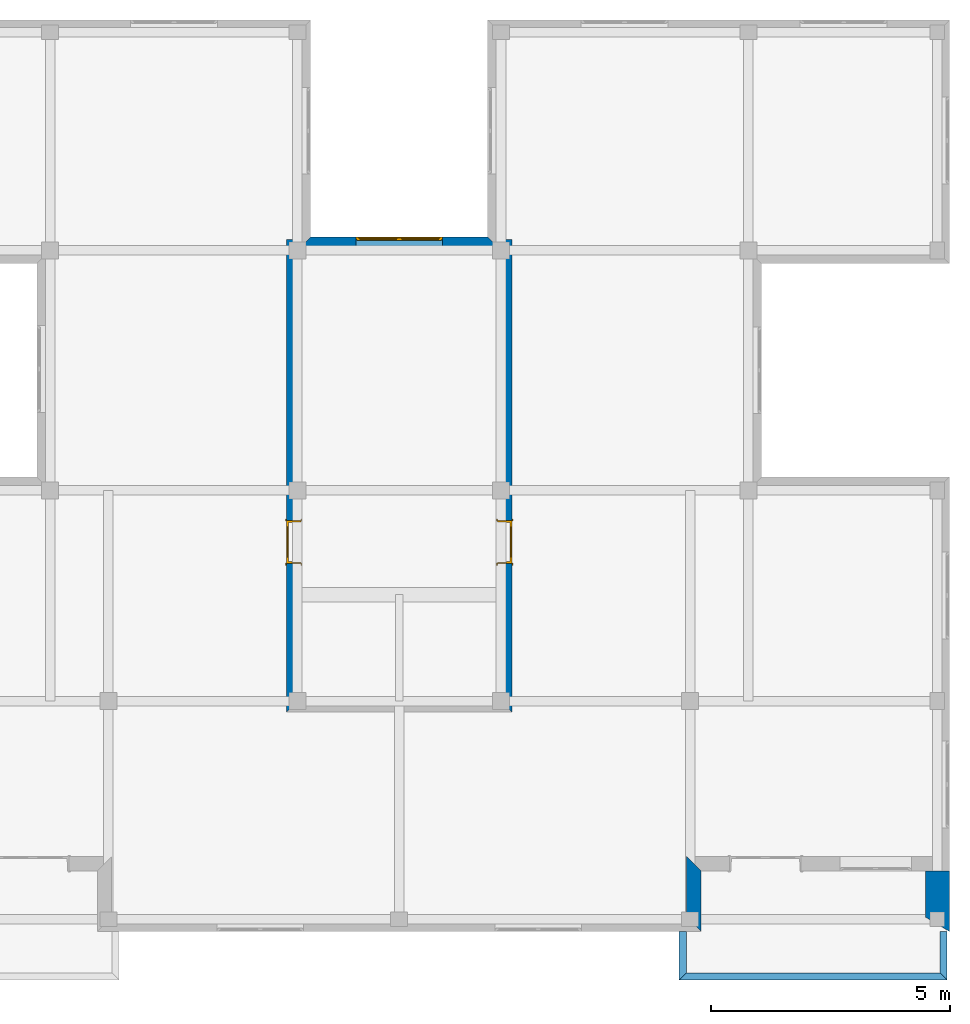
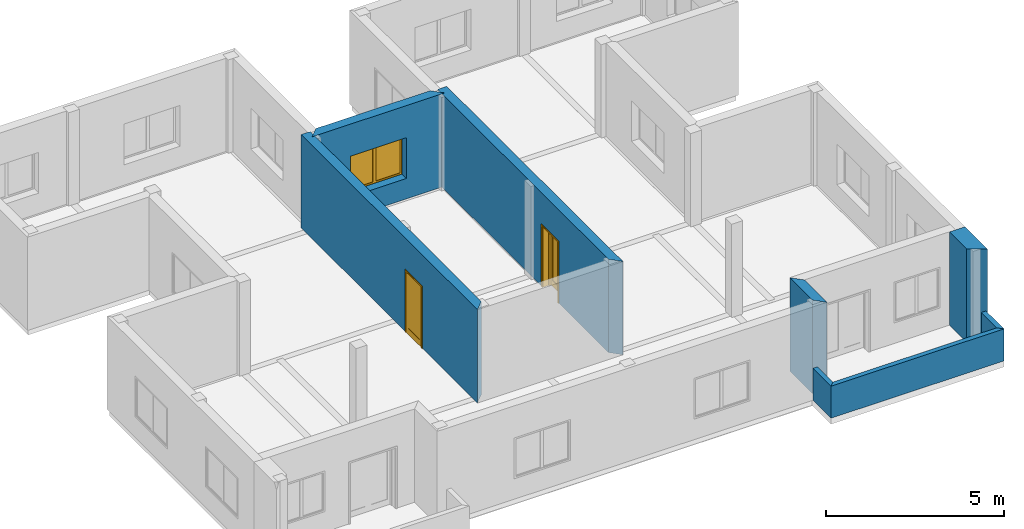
# One storey, part 4 of 6: 8 walls, 2 doors, 1 window, 3 openings.
"""IFC2X3 building model written with IfcOpenShell, lengths in millimetres."""

from ifc_helpers import new_model, entity, si_unit, converted_unit, direction, frame, origin_with_axes, origin_2d_with_axis, place, context, subcontext, project, spatial, polyline, rectangle, outline, extrude, faceted_brep, source, transform, mapped, material, layer, layer_set, layer_usage, type_object, element, fill, save


model = new_model("IFC2X3")

# Units and contexts
model_context = context("Model", 3, precision=1e-05, world=origin_with_axes(), true_north=direction((0.0, 1.0)))
body_context = subcontext(model_context, "Body", "Model", "MODEL_VIEW")
ifc_project = project(units=[si_unit("LENGTHUNIT", "METRE", prefix="MILLI"), si_unit("AREAUNIT", "SQUARE_METRE"), si_unit("VOLUMEUNIT", "CUBIC_METRE"), converted_unit("PLANEANGLEUNIT", "DEGREE", entity("IfcPlaneAngleMeasure", 0.017453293), si_unit("PLANEANGLEUNIT", "RADIAN"), dimensions=[0, 0, 0, 0, 0, 0, 0]), si_unit("SOLIDANGLEUNIT", "STERADIAN"), si_unit("MASSUNIT", "GRAM"), si_unit("TIMEUNIT", "SECOND"), si_unit("THERMODYNAMICTEMPERATUREUNIT", "DEGREE_CELSIUS"), si_unit("LUMINOUSINTENSITYUNIT", "LUMEN")], contexts=[model_context])

# Site, building, storey
site_placement = place(None, origin_with_axes())
site = spatial("IfcSite", under=ifc_project, at=site_placement, Name="Sitio", CompositionType="ELEMENT")
building_placement = place(site_placement, origin_with_axes())
building = spatial("IfcBuilding", under=site, at=building_placement, Name="Ejemplo_StruBIM", CompositionType="ELEMENT")
storey_placement = place(building_placement, frame((0.0, 0.0, 12801.6), z_axis=(0.0, 0.0, 1.0), x_axis=(1.0, 0.0, 0.0)))
storey = spatial("IfcBuildingStorey", under=building, at=storey_placement, Name="Fourth floor", CompositionType="ELEMENT", Elevation=12801.6)

# Wall, opening, window
ifc_material_1 = material(Name="Bloque mampostería")
ifc_layer_1 = layer(ifc_material_1, 300.0, ventilated="UNKNOWN")
ifc_layer_set_1 = layer_set([ifc_layer_1], Name="Bloque mampostería 300")
ifc_layer_usage_1 = layer_usage(ifc_layer_set_1, "AXIS2", "POSITIVE", 0.0)
wall_type_1 = type_object("IfcWallType", Name="Bloque mampostería 11 3/4\"", PredefinedType="NOTDEFINED")
wall_1_placement = place(storey_placement, frame((13131.8, 14300.2, 0.0), z_axis=(0.0, 0.0, 1.0), x_axis=(-1.0, 0.0, 0.0)))
wall_1 = element("IfcWallStandardCase", 1, at=wall_1_placement, inside=storey, type_object=wall_type_1, material=ifc_layer_usage_1, Name="Muro-008", context=body_context, shape_type="SweptSolid", body=[
    extrude(outline(polyline([(0.0, 0.0), (3708.4, 0.0), (4008.4, 300.0), (-300.0, 300.0), (0.0, 0.0)])), origin_with_axes(), (0.0, 0.0, 1.0), 3200.4),
])
opening_1_placement = place(wall_1_placement, frame((1854.2, 0.0, 700.0), z_axis=(0.0, 0.0, 1.0), x_axis=(1.0, 0.0, 0.0)))
opening_1 = element("IfcOpeningElement", 2, at=opening_1_placement, cuts=wall_1, Name="V10", context=body_context, shape_type="SweptSolid", body=[
    extrude(rectangle(XDim=1820.0, YDim=1400.0, at=origin_2d_with_axis()), frame((0.0, 300.0, 700.0), z_axis=(0.0, -1.0, 0.0), x_axis=(1.0, 0.0, 0.0)), (0.0, 0.0, 1.0), 300.0),
])
ifc_material_2 = material(Name="Fondo")
window_style = type_object("IfcWindowStyle", Name="Ventana Doble Hoja 16", ConstructionType="NOTDEFINED", OperationType="DOUBLE_PANEL_HORIZONTAL", ParameterTakesPrecedence=False, Sizeable=False)
shared_shape_1 = source(origin_with_axes(), body_context, "Body", "Brep", [
    faceted_brep([(-885.0, -50.0, 1350.0), (-885.0, -25.0, 1350.0), (-860.0, -25.0, 1350.0), (-860.0, 0.0, 1350.0), (-910.0, 0.0, 1350.0), (-910.0, -50.0, 1350.0), (-885.0, -50.0, 50.0), (-885.0, -25.0, 50.0), (-860.0, -25.0, 50.0), (-860.0, 0.0, 50.0), (-910.0, 0.0, 50.0), (-910.0, -50.0, 50.0)], [[[0, 1, 2, 3, 4, 5]], [[1, 0, 6, 7]], [[8, 2, 1, 7]], [[2, 8, 9, 3]], [[4, 3, 9, 10]], [[5, 4, 10, 11]], [[6, 0, 5, 11]], [[7, 6, 11, 10, 9, 8]]]),
    faceted_brep([(860.0, -25.0, 1350.0), (885.0, -25.0, 1350.0), (885.0, -50.0, 1350.0), (910.0, -50.0, 1350.0), (910.0, 0.0, 1350.0), (860.0, 0.0, 1350.0), (860.0, -25.0, 50.0), (885.0, -25.0, 50.0), (885.0, -50.0, 50.0), (910.0, -50.0, 50.0), (910.0, 0.0, 50.0), (860.0, 0.0, 50.0)], [[[0, 1, 2, 3, 4, 5]], [[1, 0, 6, 7]], [[8, 2, 1, 7]], [[2, 8, 9, 3]], [[9, 10, 4, 3]], [[10, 11, 5, 4]], [[6, 0, 5, 11]], [[7, 6, 11, 10, 9, 8]]]),
    faceted_brep([(860.0, -25.0, 50.0), (885.0, -25.0, 50.0), (885.0, -50.0, 50.0), (910.0, -50.0, 50.0), (910.0, 0.0, 50.0), (860.0, 0.0, 50.0), (-860.0, -25.0, 50.0), (-885.0, -25.0, 50.0), (-885.0, -25.0, 25.0), (885.0, -25.0, 25.0), (885.0, -50.0, 25.0), (-885.0, -50.0, 25.0), (-885.0, -50.0, 50.0), (-910.0, -50.0, 50.0), (-910.0, -50.0, 0.0), (910.0, -50.0, 0.0), (910.0, 0.0, 0.0), (-910.0, 0.0, 50.0), (-860.0, 0.0, 50.0), (-910.0, 0.0, 0.0)], [[[0, 1, 2, 3, 4, 5]], [[1, 0, 6, 7, 8, 9]], [[10, 2, 1, 9]], [[11, 12, 13, 14, 15, 3, 2, 10]], [[15, 16, 4, 3]], [[17, 18, 5, 4, 16, 19]], [[6, 0, 5, 18]], [[7, 6, 18, 17, 13, 12]], [[7, 12, 11, 8]], [[11, 10, 9, 8]], [[13, 17, 19, 14]], [[14, 19, 16, 15]]]),
    faceted_brep([(-885.0, -50.0, 1350.0), (-885.0, -50.0, 1375.0), (885.0, -50.0, 1375.0), (885.0, -50.0, 1350.0), (910.0, -50.0, 1350.0), (910.0, -50.0, 1400.0), (-910.0, -50.0, 1400.0), (-910.0, -50.0, 1350.0), (-885.0, -25.0, 1350.0), (-885.0, -25.0, 1375.0), (885.0, -25.0, 1375.0), (885.0, -25.0, 1350.0), (860.0, -25.0, 1350.0), (860.0, 0.0, 1350.0), (910.0, 0.0, 1350.0), (910.0, 0.0, 1400.0), (-910.0, 0.0, 1400.0), (-910.0, 0.0, 1350.0), (-860.0, 0.0, 1350.0), (-860.0, -25.0, 1350.0)], [[[0, 1, 2, 3, 4, 5, 6, 7]], [[1, 0, 8, 9]], [[2, 1, 9, 10]], [[3, 2, 10, 11]], [[11, 12, 13, 14, 4, 3]], [[4, 14, 15, 5]], [[5, 15, 16, 6]], [[6, 16, 17, 7]], [[8, 0, 7, 17, 18, 19]], [[12, 11, 10, 9, 8, 19]], [[12, 19, 18, 13]], [[14, 13, 18, 17, 16, 15]]]),
    faceted_brep([(-835.0, -25.0, 1325.0), (-885.0, -25.0, 1325.0), (-885.0, -75.0, 1325.0), (-835.0, -75.0, 1325.0), (-835.0, -25.0, 75.0), (-885.0, -25.0, 75.0), (-885.0, -75.0, 75.0), (-835.0, -75.0, 75.0)], [[[0, 1, 2, 3]], [[0, 4, 5, 1]], [[1, 5, 6, 2]], [[3, 2, 6, 7]], [[4, 0, 3, 7]], [[5, 4, 7, 6]]]),
    faceted_brep([(-50.0, -25.0, 75.0), (0.0, -25.0, 75.0), (0.0, -75.0, 75.0), (-50.0, -75.0, 75.0), (-50.0, -25.0, 1325.0), (0.0, -25.0, 1325.0), (0.0, -75.0, 1325.0), (-50.0, -75.0, 1325.0)], [[[0, 1, 2, 3]], [[0, 4, 5, 1]], [[1, 5, 6, 2]], [[3, 2, 6, 7]], [[4, 0, 3, 7]], [[5, 4, 7, 6]]]),
    faceted_brep([(0.0, -25.0, 25.0), (0.0, -25.0, 75.0), (0.0, -75.0, 75.0), (0.0, -75.0, 25.0), (-885.0, -25.0, 25.0), (-885.0, -25.0, 75.0), (-835.0, -25.0, 75.0), (-50.0, -25.0, 75.0), (-50.0, -75.0, 75.0), (-835.0, -75.0, 75.0), (-885.0, -75.0, 75.0), (-885.0, -75.0, 25.0)], [[[0, 1, 2, 3]], [[0, 4, 5, 6, 7, 1]], [[1, 7, 8, 2]], [[3, 2, 8, 9, 10, 11]], [[4, 0, 3, 11]], [[5, 4, 11, 10]], [[6, 5, 10, 9]], [[7, 6, 9, 8]]]),
    faceted_brep([(-885.0, -25.0, 1375.0), (-885.0, -25.0, 1325.0), (-885.0, -75.0, 1325.0), (-885.0, -75.0, 1375.0), (0.0, -25.0, 1375.0), (0.0, -25.0, 1325.0), (-50.0, -25.0, 1325.0), (-835.0, -25.0, 1325.0), (-835.0, -75.0, 1325.0), (-50.0, -75.0, 1325.0), (0.0, -75.0, 1325.0), (0.0, -75.0, 1375.0)], [[[0, 1, 2, 3]], [[0, 4, 5, 6, 7, 1]], [[1, 7, 8, 2]], [[3, 2, 8, 9, 10, 11]], [[4, 0, 3, 11]], [[5, 4, 11, 10]], [[6, 5, 10, 9]], [[7, 6, 9, 8]]]),
    faceted_brep([(-835.0, -40.0, 75.0), (-50.0, -40.0, 75.0), (-50.0, -60.0, 75.0), (-835.0, -60.0, 75.0), (-835.0, -40.0, 1325.0), (-50.0, -40.0, 1325.0), (-50.0, -60.0, 1325.0), (-835.0, -60.0, 1325.0)], [[[0, 1, 2, 3]], [[0, 4, 5, 1]], [[1, 5, 6, 2]], [[3, 2, 6, 7]], [[4, 0, 3, 7]], [[5, 4, 7, 6]]]),
    faceted_brep([(50.0, -25.0, 1325.0), (0.0, -25.0, 1325.0), (0.0, -75.0, 1325.0), (50.0, -75.0, 1325.0), (50.0, -25.0, 75.0), (0.0, -25.0, 75.0), (0.0, -75.0, 75.0), (50.0, -75.0, 75.0)], [[[0, 1, 2, 3]], [[0, 4, 5, 1]], [[1, 5, 6, 2]], [[3, 2, 6, 7]], [[4, 0, 3, 7]], [[5, 4, 7, 6]]]),
    faceted_brep([(835.0, -25.0, 75.0), (885.0, -25.0, 75.0), (885.0, -75.0, 75.0), (835.0, -75.0, 75.0), (835.0, -25.0, 1325.0), (885.0, -25.0, 1325.0), (885.0, -75.0, 1325.0), (835.0, -75.0, 1325.0)], [[[0, 1, 2, 3]], [[0, 4, 5, 1]], [[1, 5, 6, 2]], [[3, 2, 6, 7]], [[4, 0, 3, 7]], [[5, 4, 7, 6]]]),
    faceted_brep([(885.0, -25.0, 25.0), (885.0, -25.0, 75.0), (885.0, -75.0, 75.0), (885.0, -75.0, 25.0), (0.0, -25.0, 25.0), (0.0, -25.0, 75.0), (50.0, -25.0, 75.0), (835.0, -25.0, 75.0), (835.0, -75.0, 75.0), (50.0, -75.0, 75.0), (0.0, -75.0, 75.0), (0.0, -75.0, 25.0)], [[[0, 1, 2, 3]], [[0, 4, 5, 6, 7, 1]], [[1, 7, 8, 2]], [[3, 2, 8, 9, 10, 11]], [[4, 0, 3, 11]], [[5, 4, 11, 10]], [[6, 5, 10, 9]], [[7, 6, 9, 8]]]),
    faceted_brep([(0.0, -25.0, 1375.0), (0.0, -25.0, 1325.0), (0.0, -75.0, 1325.0), (0.0, -75.0, 1375.0), (885.0, -25.0, 1375.0), (885.0, -25.0, 1325.0), (835.0, -25.0, 1325.0), (50.0, -25.0, 1325.0), (50.0, -75.0, 1325.0), (835.0, -75.0, 1325.0), (885.0, -75.0, 1325.0), (885.0, -75.0, 1375.0)], [[[0, 1, 2, 3]], [[0, 4, 5, 6, 7, 1]], [[1, 7, 8, 2]], [[3, 2, 8, 9, 10, 11]], [[4, 0, 3, 11]], [[5, 4, 11, 10]], [[6, 5, 10, 9]], [[7, 6, 9, 8]]]),
    faceted_brep([(50.0, -40.0, 75.0), (835.0, -40.0, 75.0), (835.0, -60.0, 75.0), (50.0, -60.0, 75.0), (50.0, -40.0, 1325.0), (835.0, -40.0, 1325.0), (835.0, -60.0, 1325.0), (50.0, -60.0, 1325.0)], [[[0, 1, 2, 3]], [[0, 4, 5, 1]], [[1, 5, 6, 2]], [[3, 2, 6, 7]], [[4, 0, 3, 7]], [[5, 4, 7, 6]]]),
])
window_placement = place(opening_1_placement, frame((910.0, 0.0, 0.0), z_axis=(0.0, 0.0, 1.0), x_axis=(-1.0, 0.0, 0.0)))
window = element("IfcWindow", 3, at=window_placement, inside=storey, type_object=window_style, material=ifc_material_2, Name="V10", OverallHeight=1400.0, OverallWidth=1820.0, context=body_context, shape_type="MappedRepresentation", body=[
    mapped(shared_shape_1, transform((910.0, 0.0, 0.0))),
])
fill(opening_1, window)

# Wall
ifc_layer_usage_2 = layer_usage(ifc_layer_set_1, "AXIS2", "POSITIVE", 0.0)
wall_2_placement = place(storey_placement, frame((17602.2, -254.0, 0.0), z_axis=(0.0, 0.0, 1.0), x_axis=(0.0, 1.0, 0.0)))
element("IfcWallStandardCase", 4, at=wall_2_placement, inside=storey, type_object=wall_type_1, material=ifc_layer_usage_2, Name="Muro-016", context=body_context, shape_type="SweptSolid", body=[
    extrude(outline(polyline([(0.0, 0.0), (1270.0, 0.0), (1570.0, 300.0), (300.0, 300.0), (0.0, 0.0)])), origin_with_axes(), (0.0, 0.0, 1.0), 3200.4),
])

# Wall, opening, door
ifc_layer_usage_3 = layer_usage(ifc_layer_set_1, "AXIS2", "POSITIVE", 0.0)
wall_3_placement = place(storey_placement, frame((13639.8, 4343.4, 0.0), z_axis=(0.0, 0.0, 1.0), x_axis=(0.0, 1.0, 0.0)))
wall_3 = element("IfcWallStandardCase", 5, at=wall_3_placement, inside=storey, type_object=wall_type_1, material=ifc_layer_usage_3, Name="Muro-009", context=body_context, shape_type="SweptSolid", body=[
    extrude(outline(polyline([(0.0, 0.0), (9906.0, 0.0), (9906.0, 300.0), (300.0, 300.0), (0.0, 0.0)])), origin_with_axes(), (0.0, 0.0, 1.0), 3200.4),
])
opening_2_placement = place(wall_3_placement, frame((3563.2, 0.0, 0.0), z_axis=(0.0, 0.0, 1.0), x_axis=(1.0, 0.0, 0.0)))
opening_2 = element("IfcOpeningElement", 6, at=opening_2_placement, cuts=wall_3, Name="P02", context=body_context, shape_type="SweptSolid", body=[
    extrude(rectangle(XDim=900.0, YDim=2100.0, at=origin_2d_with_axis()), frame((0.0, 300.0, 1050.0), z_axis=(0.0, 1.0, 0.0), x_axis=(1.0, 0.0, 0.0)), (0.0, 0.0, -1.0), 300.0),
    extrude(rectangle(XDim=974.0, YDim=2137.0, at=origin_2d_with_axis()), frame((0.0, 300.0, 1068.5), z_axis=(0.0, 1.0, 0.0), x_axis=(1.0, 0.0, 0.0)), (0.0, 0.0, 1.0), 300.0),
    extrude(rectangle(XDim=974.0, YDim=2137.0, at=origin_2d_with_axis()), frame((0.0, 0.0, 1068.5), z_axis=(0.0, -1.0, 0.0), x_axis=(1.0, 0.0, 0.0)), (0.0, 0.0, 1.0), 300.0),
])
door_style_1 = type_object("IfcDoorStyle", Name="Puerta 16", ConstructionType="NOTDEFINED", OperationType="SINGLE_SWING_LEFT", ParameterTakesPrecedence=False, Sizeable=False)
shared_shape_2 = source(origin_with_axes(), body_context, "Body", "Brep", [
    faceted_brep([(450.0, -115.0, 0.0), (450.0, -300.0, 0.0), (425.0, -300.0, 0.0), (425.0, -115.0, 0.0), (450.0, -115.0, 2100.0), (450.0, -300.0, 2100.0), (425.0, -300.0, 2075.0), (425.0, -115.0, 2075.0)], [[[0, 1, 2, 3]], [[4, 5, 1, 0]], [[1, 5, 6, 2]], [[3, 2, 6, 7]], [[0, 3, 7, 4]], [[7, 6, 5, 4]]]),
    faceted_brep([(-450.0, -115.0, 2100.0), (-450.0, -300.0, 2100.0), (-425.0, -300.0, 2075.0), (-425.0, -115.0, 2075.0), (-450.0, -115.0, 0.0), (-450.0, -300.0, 0.0), (-425.0, -300.0, 0.0), (-425.0, -115.0, 0.0)], [[[0, 1, 2, 3]], [[4, 5, 1, 0]], [[1, 5, 6, 2]], [[3, 2, 6, 7]], [[0, 3, 7, 4]], [[7, 6, 5, 4]]]),
    faceted_brep([(425.0, -115.0, 2075.0), (425.0, -300.0, 2075.0), (-425.0, -300.0, 2075.0), (-425.0, -115.0, 2075.0), (450.0, -115.0, 2100.0), (450.0, -300.0, 2100.0), (-450.0, -300.0, 2100.0), (-450.0, -115.0, 2100.0)], [[[0, 1, 2, 3]], [[4, 5, 1, 0]], [[1, 5, 6, 2]], [[3, 2, 6, 7]], [[0, 3, 7, 4]], [[7, 6, 5, 4]]]),
    faceted_brep([(487.0, -319.0, 0.0), (437.0, -319.0, 0.0), (437.0, -300.0, 0.0), (487.0, -300.0, 0.0), (487.0, -319.0, 2137.0), (437.0, -319.0, 2087.0), (437.0, -300.0, 2087.0), (487.0, -300.0, 2137.0)], [[[0, 1, 2, 3]], [[0, 4, 5, 1]], [[1, 5, 6, 2]], [[3, 2, 6, 7]], [[4, 0, 3, 7]], [[5, 4, 7, 6]]]),
    faceted_brep([(-487.0, -319.0, 2137.0), (-437.0, -319.0, 2087.0), (-437.0, -300.0, 2087.0), (-487.0, -300.0, 2137.0), (-487.0, -319.0, 0.0), (-437.0, -319.0, 0.0), (-437.0, -300.0, 0.0), (-487.0, -300.0, 0.0)], [[[0, 1, 2, 3]], [[0, 4, 5, 1]], [[1, 5, 6, 2]], [[3, 2, 6, 7]], [[4, 0, 3, 7]], [[5, 4, 7, 6]]]),
    faceted_brep([(487.0, -319.0, 2137.0), (437.0, -319.0, 2087.0), (437.0, -300.0, 2087.0), (487.0, -300.0, 2137.0), (-487.0, -319.0, 2137.0), (-437.0, -319.0, 2087.0), (-437.0, -300.0, 2087.0), (-487.0, -300.0, 2137.0)], [[[0, 1, 2, 3]], [[0, 4, 5, 1]], [[1, 5, 6, 2]], [[3, 2, 6, 7]], [[4, 0, 3, 7]], [[5, 4, 7, 6]]]),
    faceted_brep([(487.0, 19.0, 0.0), (487.0, 0.0, 0.0), (437.0, 0.0, 0.0), (437.0, 19.0, 0.0), (487.0, 19.0, 2137.0), (487.0, 0.0, 2137.0), (437.0, 0.0, 2087.0), (437.0, 19.0, 2087.0)], [[[0, 1, 2, 3]], [[4, 5, 1, 0]], [[1, 5, 6, 2]], [[3, 2, 6, 7]], [[0, 3, 7, 4]], [[7, 6, 5, 4]]]),
    faceted_brep([(-487.0, 19.0, 2137.0), (-487.0, 0.0, 2137.0), (-437.0, 0.0, 2087.0), (-437.0, 19.0, 2087.0), (-487.0, 19.0, 0.0), (-487.0, 0.0, 0.0), (-437.0, 0.0, 0.0), (-437.0, 19.0, 0.0)], [[[0, 1, 2, 3]], [[4, 5, 1, 0]], [[1, 5, 6, 2]], [[3, 2, 6, 7]], [[0, 3, 7, 4]], [[7, 6, 5, 4]]]),
    faceted_brep([(487.0, 19.0, 2137.0), (487.0, 0.0, 2137.0), (437.0, 0.0, 2087.0), (437.0, 19.0, 2087.0), (-487.0, 19.0, 2137.0), (-487.0, 0.0, 2137.0), (-437.0, 0.0, 2087.0), (-437.0, 19.0, 2087.0)], [[[0, 1, 2, 3]], [[4, 5, 1, 0]], [[1, 5, 6, 2]], [[3, 2, 6, 7]], [[0, 3, 7, 4]], [[7, 6, 5, 4]]]),
    faceted_brep([(410.0, -40.0, 0.0), (410.0, -115.0, 0.0), (410.0, -115.0, 2060.0), (410.0, -40.0, 2060.0), (422.0, -40.0, 0.0), (422.0, 2.2351741e-07, 0.0), (450.0, 2.2351741e-07, -3.8951635e-07), (450.0, -115.0, 0.0), (450.0, -115.0, 2060.0), (422.0, -40.0, 2060.0), (450.0, 2.2351741e-07, 2060.0), (422.0, 2.2351741e-07, 2060.0)], [[[0, 1, 2, 3]], [[4, 5, 6, 7, 1, 0]], [[8, 2, 1, 7]], [[9, 3, 2, 8, 10, 11]], [[9, 4, 0, 3]], [[11, 5, 4, 9]], [[11, 10, 6, 5]], [[7, 6, 10, 8]]]),
    faceted_brep([(-422.0, -40.0, 2060.0), (-422.0, 2.2351741e-07, 2060.0), (-450.0, 2.2351741e-07, 2060.0), (-450.0, -115.0, 2060.0), (-410.0, -115.0, 2060.0), (-410.0, -40.0, 2060.0), (-422.0, -40.0, 0.0), (-422.0, 2.2351741e-07, 0.0), (-450.0, 2.2351741e-07, -3.8951635e-07), (-450.0, -115.0, 0.0), (-410.0, -115.0, 0.0), (-410.0, -40.0, 0.0)], [[[0, 1, 2, 3, 4, 5]], [[0, 6, 7, 1]], [[7, 8, 2, 1]], [[3, 2, 8, 9]], [[10, 4, 3, 9]], [[5, 4, 10, 11]], [[5, 11, 6, 0]], [[6, 11, 10, 9, 8, 7]]]),
    faceted_brep([(422.0, 2.2351741e-07, 2072.0), (-422.0, 2.2351741e-07, 2072.0), (-422.0, 2.2351741e-07, 2060.0), (-450.0, 2.2351741e-07, 2060.0), (-450.0, 2.2351741e-07, 2100.0), (450.0, 2.2351741e-07, 2100.0), (450.0, 2.2351741e-07, 2060.0), (422.0, 2.2351741e-07, 2060.0), (422.0, -40.0, 2072.0), (-422.0, -40.0, 2072.0), (-422.0, -40.0, 2060.0), (-410.0, -40.0, 2060.0), (-410.0, -115.0, 2060.0), (-450.0, -115.0, 2060.0), (-450.0, -115.0, 2100.0), (450.0, -115.0, 2100.0), (450.0, -115.0, 2060.0), (422.0, -40.0, 2060.0), (410.0, -115.0, 2060.0), (410.0, -40.0, 2060.0)], [[[0, 1, 2, 3, 4, 5, 6, 7]], [[0, 8, 9, 1]], [[1, 9, 10, 2]], [[10, 11, 12, 13, 3, 2]], [[14, 4, 3, 13]], [[15, 5, 4, 14]], [[16, 6, 5, 15]], [[17, 7, 6, 16, 18, 19]], [[7, 17, 8, 0]], [[10, 9, 8, 17, 19, 11]], [[19, 18, 12, 11]], [[14, 13, 12, 18, 16, 15]]]),
    faceted_brep([(-422.0, 0.0, 200.0), (-322.0, 0.0, 200.0), (-322.0, -40.0, 200.0), (-422.0, -40.0, 200.0), (-422.0, 0.0, 1972.0), (-322.0, 0.0, 1972.0), (-322.0, -40.0, 1972.0), (-422.0, -40.0, 1972.0)], [[[0, 1, 2, 3]], [[0, 4, 5, 1]], [[1, 5, 6, 2]], [[3, 2, 6, 7]], [[4, 0, 3, 7]], [[5, 4, 7, 6]]]),
    faceted_brep([(422.0, 0.0, 200.0), (422.0, 0.0, 1972.0), (422.0, -40.0, 1972.0), (422.0, -40.0, 200.0), (322.0, 0.0, 200.0), (322.0, 0.0, 1972.0), (322.0, -40.0, 1972.0), (322.0, -40.0, 200.0)], [[[0, 1, 2, 3]], [[0, 4, 5, 1]], [[1, 5, 6, 2]], [[3, 2, 6, 7]], [[4, 0, 3, 7]], [[5, 4, 7, 6]]]),
    faceted_brep([(-422.0, 0.0, 0.0), (422.0, 0.0, 0.0), (422.0, -40.0, 0.0), (-422.0, -40.0, 0.0), (-422.0, 0.0, 200.0), (-322.0, 0.0, 200.0), (322.0, 0.0, 200.0), (422.0, 0.0, 200.0), (422.0, -40.0, 200.0), (322.0, -40.0, 200.0), (-322.0, -40.0, 200.0), (-422.0, -40.0, 200.0)], [[[0, 1, 2, 3]], [[0, 4, 5, 6, 7, 1]], [[1, 7, 8, 2]], [[3, 2, 8, 9, 10, 11]], [[4, 0, 3, 11]], [[5, 4, 11, 10]], [[6, 5, 10, 9]], [[7, 6, 9, 8]]]),
    faceted_brep([(-422.0, 0.0, 2072.0), (-422.0, 0.0, 1972.0), (-422.0, -40.0, 1972.0), (-422.0, -40.0, 2072.0), (422.0, 0.0, 2072.0), (422.0, 0.0, 1972.0), (322.0, 0.0, 1972.0), (-322.0, 0.0, 1972.0), (-322.0, -40.0, 1972.0), (322.0, -40.0, 1972.0), (422.0, -40.0, 1972.0), (422.0, -40.0, 2072.0)], [[[0, 1, 2, 3]], [[0, 4, 5, 6, 7, 1]], [[1, 7, 8, 2]], [[3, 2, 8, 9, 10, 11]], [[4, 0, 3, 11]], [[5, 4, 11, 10]], [[6, 5, 10, 9]], [[7, 6, 9, 8]]]),
    faceted_brep([(-322.0, -14.0, 200.0), (322.0, -14.0, 200.0), (322.0, -26.0, 200.0), (-322.0, -26.0, 200.0), (-322.0, -14.0, 1972.0), (322.0, -14.0, 1972.0), (322.0, -26.0, 1972.0), (-322.0, -26.0, 1972.0)], [[[0, 1, 2, 3]], [[0, 4, 5, 1]], [[1, 5, 6, 2]], [[3, 2, 6, 7]], [[4, 0, 3, 7]], [[5, 4, 7, 6]]]),
])
door_1_placement = place(opening_2_placement, frame((450.0, 0.0, 0.0), z_axis=(0.0, 0.0, 1.0), x_axis=(-1.0, 0.0, 0.0)))
door_1 = element("IfcDoor", 7, at=door_1_placement, inside=storey, type_object=door_style_1, material=ifc_material_2, Name="P02", OverallHeight=2100.0, OverallWidth=900.0, context=body_context, shape_type="MappedRepresentation", body=[
    mapped(shared_shape_2, transform((450.0, 0.0, 0.0))),
])
fill(opening_2, door_1)

ifc_layer_usage_4 = layer_usage(ifc_layer_set_1, "AXIS2", "NEGATIVE", 0.0)
wall_4_placement = place(storey_placement, frame((8915.4, 4343.4, 0.0), z_axis=(0.0, 0.0, 1.0), x_axis=(0.0, 1.0, 0.0)))
wall_4 = element("IfcWallStandardCase", 8, at=wall_4_placement, inside=storey, type_object=wall_type_1, material=ifc_layer_usage_4, Name="Muro-009", context=body_context, shape_type="SweptSolid", body=[
    extrude(outline(polyline([(300.0, -300.0), (9906.0, -300.0), (9906.0, 0.0), (0.0, 0.0), (300.0, -300.0)])), origin_with_axes(), (0.0, 0.0, 1.0), 3200.4),
])
opening_3_placement = place(wall_4_placement, frame((3563.2, 0.0, 0.0), z_axis=(0.0, 0.0, 1.0), x_axis=(1.0, 0.0, 0.0)))
opening_3 = element("IfcOpeningElement", 9, at=opening_3_placement, cuts=wall_4, Name="P01", context=body_context, shape_type="SweptSolid", body=[
    extrude(rectangle(XDim=900.0, YDim=2100.0, at=origin_2d_with_axis()), frame((0.0, -300.0, 1050.0), z_axis=(0.0, 1.0, 0.0), x_axis=(1.0, 0.0, 0.0)), (0.0, 0.0, 1.0), 300.0),
    extrude(rectangle(XDim=974.0, YDim=2137.0, at=origin_2d_with_axis()), frame((0.0, -300.0, 1068.5), z_axis=(0.0, 1.0, 0.0), x_axis=(1.0, 0.0, 0.0)), (0.0, 0.0, -1.0), 300.0),
    extrude(rectangle(XDim=974.0, YDim=2137.0, at=origin_2d_with_axis()), frame((0.0, 0.0, 1068.5), z_axis=(0.0, -1.0, 0.0), x_axis=(1.0, 0.0, 0.0)), (0.0, 0.0, -1.0), 300.0),
])
door_style_2 = type_object("IfcDoorStyle", Name="Puerta 16", ConstructionType="NOTDEFINED", OperationType="SINGLE_SWING_RIGHT", ParameterTakesPrecedence=False, Sizeable=False)
shared_shape_3 = source(origin_with_axes(), body_context, "Body", "Brep", [
    faceted_brep([(-450.0, -115.0, 0.0), (-425.0, -115.0, 0.0), (-425.0, -300.0, 0.0), (-450.0, -300.0, 0.0), (-450.0, -115.0, 2100.0), (-425.0, -115.0, 2075.0), (-425.0, -300.0, 2075.0), (-450.0, -300.0, 2100.0)], [[[0, 1, 2, 3]], [[0, 4, 5, 1]], [[1, 5, 6, 2]], [[3, 2, 6, 7]], [[4, 0, 3, 7]], [[5, 4, 7, 6]]]),
    faceted_brep([(450.0, -115.0, 2100.0), (425.0, -115.0, 2075.0), (425.0, -300.0, 2075.0), (450.0, -300.0, 2100.0), (450.0, -115.0, 0.0), (425.0, -115.0, 0.0), (425.0, -300.0, 0.0), (450.0, -300.0, 0.0)], [[[0, 1, 2, 3]], [[0, 4, 5, 1]], [[1, 5, 6, 2]], [[3, 2, 6, 7]], [[4, 0, 3, 7]], [[5, 4, 7, 6]]]),
    faceted_brep([(-425.0, -115.0, 2075.0), (425.0, -115.0, 2075.0), (425.0, -300.0, 2075.0), (-425.0, -300.0, 2075.0), (-450.0, -115.0, 2100.0), (450.0, -115.0, 2100.0), (450.0, -300.0, 2100.0), (-450.0, -300.0, 2100.0)], [[[0, 1, 2, 3]], [[0, 4, 5, 1]], [[1, 5, 6, 2]], [[3, 2, 6, 7]], [[4, 0, 3, 7]], [[5, 4, 7, 6]]]),
    faceted_brep([(-487.0, -319.0, 0.0), (-487.0, -300.0, 0.0), (-437.0, -300.0, 0.0), (-437.0, -319.0, 0.0), (-487.0, -319.0, 2137.0), (-487.0, -300.0, 2137.0), (-437.0, -300.0, 2087.0), (-437.0, -319.0, 2087.0)], [[[0, 1, 2, 3]], [[4, 5, 1, 0]], [[1, 5, 6, 2]], [[3, 2, 6, 7]], [[0, 3, 7, 4]], [[7, 6, 5, 4]]]),
    faceted_brep([(487.0, -319.0, 2137.0), (487.0, -300.0, 2137.0), (437.0, -300.0, 2087.0), (437.0, -319.0, 2087.0), (487.0, -319.0, 0.0), (487.0, -300.0, 0.0), (437.0, -300.0, 0.0), (437.0, -319.0, 0.0)], [[[0, 1, 2, 3]], [[4, 5, 1, 0]], [[1, 5, 6, 2]], [[3, 2, 6, 7]], [[0, 3, 7, 4]], [[7, 6, 5, 4]]]),
    faceted_brep([(-487.0, -319.0, 2137.0), (-487.0, -300.0, 2137.0), (-437.0, -300.0, 2087.0), (-437.0, -319.0, 2087.0), (487.0, -319.0, 2137.0), (487.0, -300.0, 2137.0), (437.0, -300.0, 2087.0), (437.0, -319.0, 2087.0)], [[[0, 1, 2, 3]], [[4, 5, 1, 0]], [[1, 5, 6, 2]], [[3, 2, 6, 7]], [[0, 3, 7, 4]], [[7, 6, 5, 4]]]),
    faceted_brep([(-487.0, 19.0, 0.0), (-437.0, 19.0, 0.0), (-437.0, 0.0, 0.0), (-487.0, 0.0, 0.0), (-487.0, 19.0, 2137.0), (-437.0, 19.0, 2087.0), (-437.0, 0.0, 2087.0), (-487.0, 0.0, 2137.0)], [[[0, 1, 2, 3]], [[0, 4, 5, 1]], [[1, 5, 6, 2]], [[3, 2, 6, 7]], [[4, 0, 3, 7]], [[5, 4, 7, 6]]]),
    faceted_brep([(487.0, 19.0, 2137.0), (437.0, 19.0, 2087.0), (437.0, 0.0, 2087.0), (487.0, 0.0, 2137.0), (487.0, 19.0, 0.0), (437.0, 19.0, 0.0), (437.0, 0.0, 0.0), (487.0, 0.0, 0.0)], [[[0, 1, 2, 3]], [[0, 4, 5, 1]], [[1, 5, 6, 2]], [[3, 2, 6, 7]], [[4, 0, 3, 7]], [[5, 4, 7, 6]]]),
    faceted_brep([(-487.0, 19.0, 2137.0), (-437.0, 19.0, 2087.0), (-437.0, 0.0, 2087.0), (-487.0, 0.0, 2137.0), (487.0, 19.0, 2137.0), (437.0, 19.0, 2087.0), (437.0, 0.0, 2087.0), (487.0, 0.0, 2137.0)], [[[0, 1, 2, 3]], [[0, 4, 5, 1]], [[1, 5, 6, 2]], [[3, 2, 6, 7]], [[4, 0, 3, 7]], [[5, 4, 7, 6]]]),
    faceted_brep([(-410.0, -40.0, 0.0), (-410.0, -40.0, 2060.0), (-410.0, -115.0, 2060.0), (-410.0, -115.0, 0.0), (-422.0, -40.0, 2060.0), (-422.0, -40.0, 0.0), (-422.0, 2.2351741e-07, 2060.0), (-450.0, 2.2351741e-07, 2060.0), (-450.0, -115.0, 2060.0), (-450.0, -115.0, 0.0), (-450.0, 2.2351741e-07, -3.8951635e-07), (-422.0, 2.2351741e-07, 0.0)], [[[0, 1, 2, 3]], [[4, 1, 0, 5]], [[4, 6, 7, 8, 2, 1]], [[8, 9, 3, 2]], [[5, 0, 3, 9, 10, 11]], [[6, 4, 5, 11]], [[6, 11, 10, 7]], [[9, 8, 7, 10]]]),
    faceted_brep([(422.0, -40.0, 2060.0), (410.0, -40.0, 2060.0), (410.0, -115.0, 2060.0), (450.0, -115.0, 2060.0), (450.0, 2.2351741e-07, 2060.0), (422.0, 2.2351741e-07, 2060.0), (422.0, -40.0, 0.0), (410.0, -40.0, 0.0), (410.0, -115.0, 0.0), (450.0, -115.0, 0.0), (450.0, 2.2351741e-07, -3.8951635e-07), (422.0, 2.2351741e-07, 0.0)], [[[0, 1, 2, 3, 4, 5]], [[1, 0, 6, 7]], [[1, 7, 8, 2]], [[8, 9, 3, 2]], [[3, 9, 10, 4]], [[11, 5, 4, 10]], [[0, 5, 11, 6]], [[6, 11, 10, 9, 8, 7]]]),
    faceted_brep([(-422.0, 2.2351741e-07, 2072.0), (-422.0, 2.2351741e-07, 2060.0), (-450.0, 2.2351741e-07, 2060.0), (-450.0, 2.2351741e-07, 2100.0), (450.0, 2.2351741e-07, 2100.0), (450.0, 2.2351741e-07, 2060.0), (422.0, 2.2351741e-07, 2060.0), (422.0, 2.2351741e-07, 2072.0), (-422.0, -40.0, 2072.0), (-422.0, -40.0, 2060.0), (-410.0, -40.0, 2060.0), (-410.0, -115.0, 2060.0), (-450.0, -115.0, 2060.0), (-450.0, -115.0, 2100.0), (450.0, -115.0, 2100.0), (450.0, -115.0, 2060.0), (422.0, -40.0, 2060.0), (410.0, -115.0, 2060.0), (410.0, -40.0, 2060.0), (422.0, -40.0, 2072.0)], [[[0, 1, 2, 3, 4, 5, 6, 7]], [[1, 0, 8, 9]], [[9, 10, 11, 12, 2, 1]], [[12, 13, 3, 2]], [[13, 14, 4, 3]], [[14, 15, 5, 4]], [[16, 6, 5, 15, 17, 18]], [[7, 6, 16, 19]], [[0, 7, 19, 8]], [[16, 18, 10, 9, 8, 19]], [[10, 18, 17, 11]], [[14, 13, 12, 11, 17, 15]]]),
    faceted_brep([(422.0, 0.0, 200.0), (422.0, -40.0, 200.0), (322.0, -40.0, 200.0), (322.0, 0.0, 200.0), (422.0, 0.0, 1972.0), (422.0, -40.0, 1972.0), (322.0, -40.0, 1972.0), (322.0, 0.0, 1972.0)], [[[0, 1, 2, 3]], [[4, 5, 1, 0]], [[1, 5, 6, 2]], [[3, 2, 6, 7]], [[0, 3, 7, 4]], [[7, 6, 5, 4]]]),
    faceted_brep([(-422.0, 0.0, 200.0), (-422.0, -40.0, 200.0), (-422.0, -40.0, 1972.0), (-422.0, 0.0, 1972.0), (-322.0, 0.0, 200.0), (-322.0, -40.0, 200.0), (-322.0, -40.0, 1972.0), (-322.0, 0.0, 1972.0)], [[[0, 1, 2, 3]], [[4, 5, 1, 0]], [[1, 5, 6, 2]], [[3, 2, 6, 7]], [[0, 3, 7, 4]], [[7, 6, 5, 4]]]),
    faceted_brep([(422.0, 0.0, 0.0), (422.0, -40.0, 0.0), (-422.0, -40.0, 0.0), (-422.0, 0.0, 0.0), (422.0, 0.0, 200.0), (422.0, -40.0, 200.0), (322.0, -40.0, 200.0), (-322.0, -40.0, 200.0), (-422.0, -40.0, 200.0), (-422.0, 0.0, 200.0), (-322.0, 0.0, 200.0), (322.0, 0.0, 200.0)], [[[0, 1, 2, 3]], [[4, 5, 1, 0]], [[1, 5, 6, 7, 8, 2]], [[3, 2, 8, 9]], [[0, 3, 9, 10, 11, 4]], [[11, 6, 5, 4]], [[10, 7, 6, 11]], [[9, 8, 7, 10]]]),
    faceted_brep([(422.0, 0.0, 2072.0), (422.0, -40.0, 2072.0), (422.0, -40.0, 1972.0), (422.0, 0.0, 1972.0), (-422.0, 0.0, 2072.0), (-422.0, -40.0, 2072.0), (-422.0, -40.0, 1972.0), (-322.0, -40.0, 1972.0), (322.0, -40.0, 1972.0), (322.0, 0.0, 1972.0), (-322.0, 0.0, 1972.0), (-422.0, 0.0, 1972.0)], [[[0, 1, 2, 3]], [[4, 5, 1, 0]], [[1, 5, 6, 7, 8, 2]], [[3, 2, 8, 9]], [[0, 3, 9, 10, 11, 4]], [[11, 6, 5, 4]], [[10, 7, 6, 11]], [[9, 8, 7, 10]]]),
    faceted_brep([(322.0, -14.0, 200.0), (322.0, -26.0, 200.0), (-322.0, -26.0, 200.0), (-322.0, -14.0, 200.0), (322.0, -14.0, 1972.0), (322.0, -26.0, 1972.0), (-322.0, -26.0, 1972.0), (-322.0, -14.0, 1972.0)], [[[0, 1, 2, 3]], [[4, 5, 1, 0]], [[1, 5, 6, 2]], [[3, 2, 6, 7]], [[0, 3, 7, 4]], [[7, 6, 5, 4]]]),
])
door_2_placement = place(opening_3_placement, frame((-450.0, 0.0, 0.0), z_axis=(0.0, 0.0, 1.0), x_axis=(1.0, 0.0, 0.0)))
door_2 = element("IfcDoor", 10, at=door_2_placement, inside=storey, type_object=door_style_2, material=ifc_material_2, Name="P01", OverallHeight=2100.0, OverallWidth=900.0, context=body_context, shape_type="MappedRepresentation", body=[
    mapped(shared_shape_3, transform((450.0, 0.0, 0.0))),
])
fill(opening_3, door_2)

# Walls
ifc_layer_2 = layer(ifc_material_1, 150.0, ventilated="UNKNOWN")
ifc_layer_set_2 = layer_set([ifc_layer_2], Name="Bloque mampostería 150")
ifc_layer_usage_5 = layer_usage(ifc_layer_set_2, "AXIS2", "NEGATIVE", 0.0)
wall_type_2 = type_object("IfcWallType", Name="Bloque mampostería 6\"", PredefinedType="NOTDEFINED")
wall_5_placement = place(storey_placement, frame((17145.0, -1270.0, 0.0), z_axis=(0.0, 0.0, 1.0), x_axis=(0.0, 1.0, 0.0)))
element("IfcWallStandardCase", 11, at=wall_5_placement, inside=storey, type_object=wall_type_2, material=ifc_layer_usage_5, Name="Muro-014", context=body_context, shape_type="SweptSolid", body=[
    extrude(outline(polyline([(150.0, -150.0), (1016.0, -150.0), (1016.0, 0.0), (0.0, 0.0), (150.0, -150.0)])), origin_with_axes(), (0.0, 0.0, 1.0), 1100.0),
])
ifc_layer_usage_6 = layer_usage(ifc_layer_set_2, "AXIS2", "NEGATIVE", 0.0)
wall_6_placement = place(storey_placement, frame((22758.4, -1270.0, 0.0), z_axis=(0.0, 0.0, 1.0), x_axis=(-1.0, 0.0, 0.0)))
element("IfcWallStandardCase", 12, at=wall_6_placement, inside=storey, type_object=wall_type_2, material=ifc_layer_usage_6, Name="Muro-013", context=body_context, shape_type="SweptSolid", body=[
    extrude(outline(polyline([(150.0, -150.0), (5463.4, -150.0), (5613.4, 0.0), (0.0, 0.0), (150.0, -150.0)])), origin_with_axes(), (0.0, 0.0, 1.0), 1100.0),
])
ifc_layer_usage_7 = layer_usage(ifc_layer_set_2, "AXIS2", "NEGATIVE", 0.0)
wall_7_placement = place(storey_placement, frame((22758.4, -254.0, 0.0), z_axis=(0.0, 0.0, 1.0), x_axis=(0.0, -1.0, 0.0)))
element("IfcWallStandardCase", 13, at=wall_7_placement, inside=storey, type_object=wall_type_2, material=ifc_layer_usage_7, Name="Muro-012", context=body_context, shape_type="SweptSolid", body=[
    extrude(outline(polyline([(0.0, -150.0), (866.0, -150.0), (1016.0, 0.0), (0.0, 0.0), (0.0, -150.0)])), origin_with_axes(), (0.0, 0.0, 1.0), 1100.0),
])
ifc_layer_3 = layer(ifc_material_1, 500.0, ventilated="UNKNOWN")
ifc_layer_set_3 = layer_set([ifc_layer_3], Name="Bloque mampostería 500")
ifc_layer_usage_8 = layer_usage(ifc_layer_set_3, "AXIS2", "POSITIVE", 0.0)
wall_type_3 = type_object("IfcWallType", Name="Bloque mampostería 19 3/4\"", PredefinedType="NOTDEFINED")
wall_8_placement = place(storey_placement, frame((22809.2, -254.0, 0.0), z_axis=(0.0, 0.0, 1.0), x_axis=(0.0, 1.0, 0.0)))
element("IfcWallStandardCase", 14, at=wall_8_placement, inside=storey, type_object=wall_type_3, material=ifc_layer_usage_8, Name="Muro-015", context=body_context, shape_type="SweptSolid", body=[
    extrude(outline(polyline([(0.0, 0.0), (1270.0, 0.0), (1270.0, 500.0), (300.0, 500.0), (0.0, 0.0)])), origin_with_axes(), (0.0, 0.0, 1.0), 3200.4),
])

save(model, "model.ifc")
